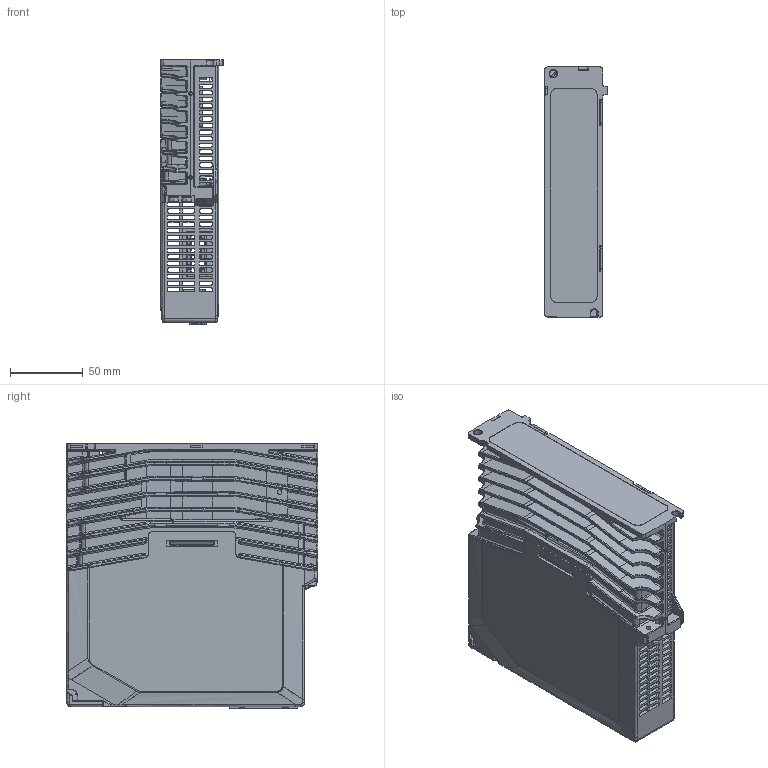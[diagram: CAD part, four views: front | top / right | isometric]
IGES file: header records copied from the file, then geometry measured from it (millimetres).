
Start section: SolidWorks IGES file using analytic representation for surfaces
Global section: file name: Z:\Products\Servo\08.2024\UNITRONICS\B5 & E5-S Drivers\200VAC ,Rated power:50W~400W CanOPEN\200VAC ,Rated power:50W~400W CanOPEN.IGS; native system: SolidWorks 2022; preprocessor: SolidWorks 2022; author: OfirZ; date: 240822.160728; units: millimetre
Bounding box: 43 x 172.2 x 181 mm (x, y, z)
Surface area: 189322.1 mm2 (no closed solid volume)
Topology: 0 solids, 0 shells, 2942 faces, 25221 edges, 25155 vertices
Faces by surface type: bspline 1788, revolution 1154
